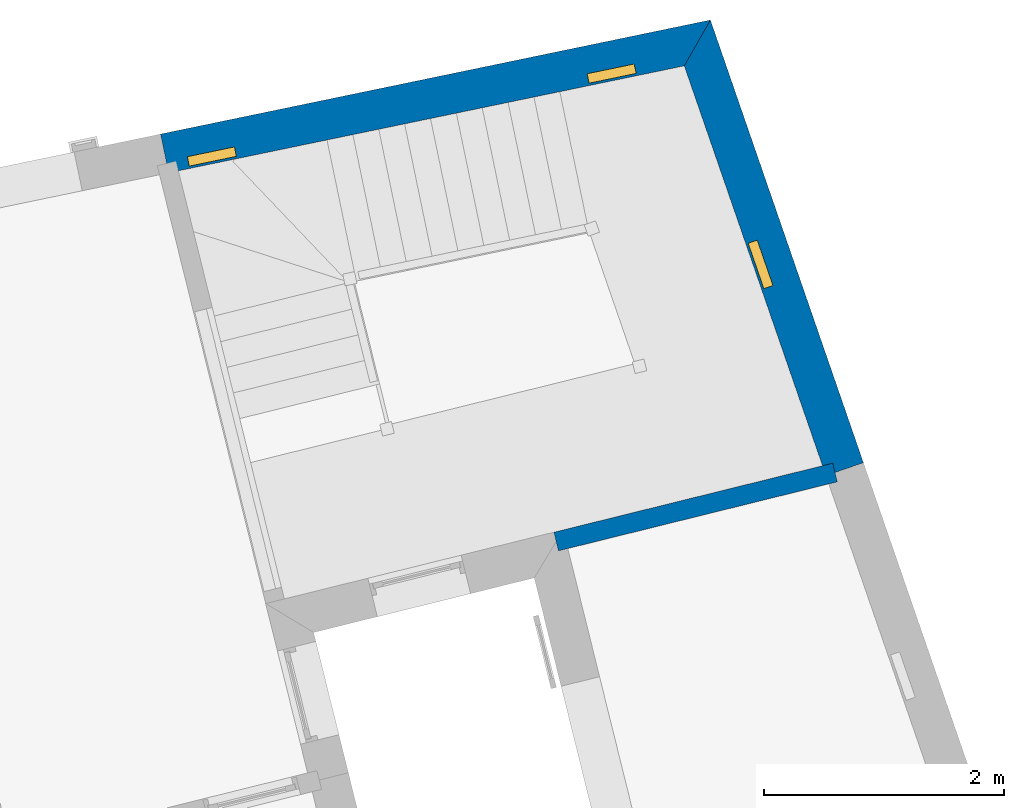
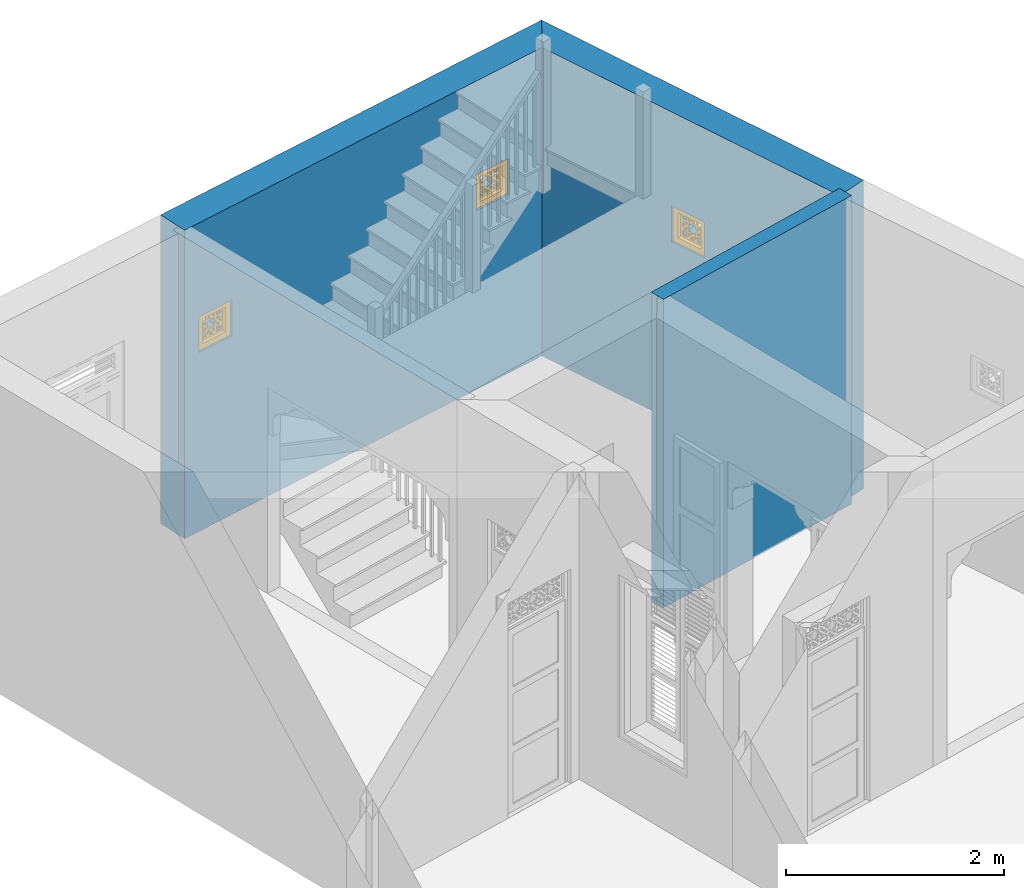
# One storey, part 10 of 10: 3 walls, 3 windows, 3 openings.
"""IFC4 building model written with IfcOpenShell, lengths in metres."""

from ifc_helpers import new_model, si_unit, frame, origin, origin_with_axes, place, context, subcontext, project, spatial, polyline, outline, extrude, faceted_brep, source, transform, mapped, material, layer, layer_set, layer_usage, type_object, type_shapes, element, fill, save


model = new_model("IFC4")

# Units and contexts
model_context = context("Model", 3, world=origin_with_axes())
body_context = subcontext(model_context, "Body", "Model", "MODEL_VIEW")
ifc_project = project(units=[si_unit("PLANEANGLEUNIT", "RADIAN"), si_unit("MASSUNIT", "GRAM", prefix="KILO"), si_unit("FORCEUNIT", "NEWTON", prefix="KILO"), si_unit("LENGTHUNIT", "METRE"), si_unit("AREAUNIT", "SQUARE_METRE"), si_unit("VOLUMEUNIT", "CUBIC_METRE")], contexts=[model_context, model_context])

# Site, building, storey
site_placement = place(None, origin_with_axes())
site = spatial("IfcSite", under=ifc_project, at=site_placement, Name="Site plot-5", CompositionType="ELEMENT")
building_placement = place(None, origin_with_axes())
building = spatial("IfcBuilding", under=site, at=building_placement, Name="Building plot-5", CompositionType="ELEMENT")
storey_placement = place(None, origin_with_axes())
storey = spatial("IfcBuildingStorey", under=building, at=storey_placement, Name="plot-5 0", CompositionType="ELEMENT", Elevation=0.0)

# Wall, opening, window
ifc_material_1 = material(Name="Masonry")
ifc_layer_1 = layer(ifc_material_1, 0.33, ventilated=False)
ifc_layer_set_1 = layer_set([ifc_layer_1], Name="exterior_0.08_0.25")
ifc_layer_usage_1 = layer_usage(ifc_layer_set_1, "AXIS2", "POSITIVE", -0.25)
wall_type_1 = type_object("IfcWallType", Name="exterior_0.08_0.25", PredefinedType="SOLIDWALL", material=ifc_layer_set_1)
wall_1_placement = place(storey_placement, frame((22.7831942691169, 28.5894654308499, 0.0), z_axis=(0.0, 0.0, 1.0), x_axis=(-0.326708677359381, 0.945125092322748, 0.0)))
wall_1 = element("IfcWall", 1, at=wall_1_placement, inside=storey, type_object=wall_type_1, material=ifc_layer_usage_1, Name="exterior", context=body_context, shape_type="SweptSolid", body=[
    extrude(outline(polyline([(7.59528607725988e-17, 0.0799999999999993), (-4.70313976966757e-15, -0.25), (3.90074241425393, -0.250000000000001), (3.61057343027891, 0.079999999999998), (7.59528607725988e-17, 0.0799999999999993)])), origin_with_axes(), (0.0, 0.0, 1.0), 3.45),
])
opening_1_placement = place(wall_1_placement, frame((1.64045871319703, 0.0, 2.0)))
opening_1 = element("IfcOpeningElement", 2, at=opening_1_placement, cuts=wall_1, Name="My Opening", ObjectType="Opening", context=body_context, shape_type="SweptSolid", body=[
    extrude(outline(polyline([(0.0, -0.270000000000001), (0.399999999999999, -0.270000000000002), (0.400000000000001, 1.1), (1.33226762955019e-15, 1.1), (0.0, -0.270000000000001)])), origin_with_axes(), (0.0, 0.0, 1.0), 0.4),
])
window_type = type_object("IfcWindowType", Name="barred_window", PartitioningType="DOUBLE_PANEL_HORIZONTAL", PredefinedType="NOTDEFINED")
shared_shape = source(origin(), body_context, "Body", "Brep", [
    faceted_brep([(0.4, 0.25, 0.4), (0.0, 0.25, 0.4), (0.06, 0.25, 0.34), (0.34, 0.25, 0.34), (0.06, 0.33, 0.34), (0.34, 0.33, 0.34), (0.34, 0.25, 0.06), (0.4, 0.25, 0.0), (0.4, 0.33, 0.4), (0.0, 0.33, 0.4), (0.0, 0.25, 0.0), (0.06, 0.25, 0.06), (0.06, 0.33, 0.06), (0.34, 0.33, 0.06), (0.4, 0.33, 0.0), (0.0, 0.33, 0.0), (0.136152, 0.28, 0.08), (0.08, 0.28, 0.08), (0.06, 0.28, 0.06), (0.136152, 0.28, 0.06), (0.136152, 0.29, 0.08), (0.08, 0.29, 0.08), (0.06, 0.28, 0.136152), (0.08, 0.28, 0.136152), (0.06, 0.29, 0.06), (0.136152, 0.29, 0.06), (0.170294, 0.28, 0.08), (0.170294, 0.28, 0.06), (0.136152, 0.28, 0.136152), (0.136152, 0.29, 0.136152), (0.08, 0.29, 0.136152), (0.06, 0.29, 0.136152), (0.08, 0.28, 0.170294), (0.06, 0.28, 0.170294), (0.170294, 0.29, 0.06), (0.229706, 0.28, 0.08), (0.229706, 0.28, 0.06), (0.156152, 0.28, 0.094142), (0.156152, 0.28, 0.136152), (0.185858, 0.28, 0.123848), (0.185858, 0.29, 0.123848), (0.156152, 0.29, 0.094142), (0.156152, 0.29, 0.136152), (0.229706, 0.29, 0.08), (0.170294, 0.29, 0.08), (0.2, 0.28, 0.109706), (0.2, 0.29, 0.109706), (0.06, 0.29, 0.170294), (0.094142, 0.28, 0.156152), (0.08, 0.28, 0.229706), (0.06, 0.28, 0.229706), (0.229706, 0.29, 0.06), (0.263848, 0.28, 0.08), (0.263848, 0.28, 0.06), (0.156152, 0.28, 0.156152), (0.136152, 0.28, 0.156152), (0.173553, 0.28, 0.136152), (0.173553, 0.29, 0.136152), (0.156152, 0.29, 0.156152), (0.136152, 0.29, 0.156152), (0.094142, 0.29, 0.156152), (0.08, 0.29, 0.170294), (0.06, 0.29, 0.229706), (0.123848, 0.28, 0.185858), (0.109706, 0.28, 0.2), (0.08, 0.29, 0.229706), (0.08, 0.28, 0.263848), (0.06, 0.28, 0.263848), (0.263848, 0.29, 0.06), (0.2, 0.28, 0.13799), (0.214142, 0.28, 0.123848), (0.34, 0.28, 0.06), (0.32, 0.28, 0.08), (0.181838, 0.28, 0.156152), (0.136152, 0.28, 0.173553), (0.156152, 0.28, 0.181838), (0.181838, 0.29, 0.156152), (0.2, 0.29, 0.13799), (0.214142, 0.29, 0.123848), (0.136152, 0.29, 0.173553), (0.156152, 0.29, 0.181838), (0.243848, 0.28, 0.094142), (0.243848, 0.29, 0.094142), (0.263848, 0.28, 0.136152), (0.263848, 0.29, 0.08), (0.263848, 0.29, 0.136152), (0.32, 0.29, 0.08), (0.243848, 0.28, 0.136152), (0.243848, 0.29, 0.136152), (0.06, 0.29, 0.263848), (0.123848, 0.29, 0.185858), (0.13799, 0.28, 0.2), (0.123848, 0.28, 0.214142), (0.109706, 0.29, 0.2), (0.094142, 0.28, 0.243848), (0.08, 0.28, 0.32), (0.06, 0.28, 0.34), (0.34, 0.29, 0.06), (0.218162, 0.28, 0.156152), (0.226447, 0.28, 0.136152), (0.34, 0.28, 0.229706), (0.32, 0.28, 0.229706), (0.32, 0.28, 0.170294), (0.32, 0.28, 0.136152), (0.218162, 0.29, 0.156152), (0.226447, 0.29, 0.136152), (0.13799, 0.29, 0.2), (0.32, 0.29, 0.136152), (0.08, 0.29, 0.263848), (0.06, 0.29, 0.34), (0.136152, 0.28, 0.226447), (0.156152, 0.28, 0.218162), (0.094142, 0.29, 0.243848), (0.123848, 0.29, 0.214142), (0.136152, 0.28, 0.243848), (0.136152, 0.28, 0.263848), (0.08, 0.29, 0.32), (0.136152, 0.28, 0.34), (0.136152, 0.28, 0.32), (0.34, 0.29, 0.229706), (0.243848, 0.28, 0.156152), (0.263848, 0.28, 0.156152), (0.34, 0.28, 0.263848), (0.32, 0.28, 0.263848), (0.32, 0.29, 0.229706), (0.32, 0.29, 0.170294), (0.290294, 0.28, 0.2), (0.276152, 0.28, 0.185858), (0.305858, 0.28, 0.156152), (0.243848, 0.29, 0.156152), (0.263848, 0.29, 0.156152), (0.305858, 0.29, 0.156152), (0.276152, 0.29, 0.185858), (0.290294, 0.29, 0.2), (0.136152, 0.29, 0.34), (0.136152, 0.29, 0.226447), (0.156152, 0.29, 0.218162), (0.156152, 0.28, 0.243848), (0.136152, 0.29, 0.243848), (0.156152, 0.28, 0.263848), (0.136152, 0.29, 0.263848), (0.136152, 0.29, 0.32), (0.170294, 0.28, 0.32), (0.170294, 0.28, 0.34), (0.34, 0.29, 0.263848), (0.243848, 0.28, 0.181838), (0.263848, 0.28, 0.173553), (0.34, 0.28, 0.34), (0.32, 0.28, 0.32), (0.305858, 0.28, 0.243848), (0.276152, 0.28, 0.214142), (0.26201, 0.28, 0.2), (0.243848, 0.29, 0.181838), (0.263848, 0.29, 0.173553), (0.26201, 0.29, 0.2), (0.276152, 0.29, 0.214142), (0.32, 0.29, 0.263848), (0.170294, 0.29, 0.34), (0.156152, 0.29, 0.243848), (0.173553, 0.28, 0.263848), (0.181838, 0.28, 0.243848), (0.156152, 0.28, 0.305858), (0.229706, 0.28, 0.32), (0.229706, 0.28, 0.34), (0.34, 0.29, 0.34), (0.263848, 0.28, 0.34), (0.263848, 0.28, 0.32), (0.32, 0.29, 0.32), (0.263848, 0.28, 0.263848), (0.263848, 0.28, 0.243848), (0.305858, 0.29, 0.243848), (0.263848, 0.28, 0.226447), (0.243848, 0.28, 0.218162), (0.243848, 0.29, 0.218162), (0.263848, 0.29, 0.226447), (0.156152, 0.29, 0.263848), (0.170294, 0.29, 0.32), (0.229706, 0.29, 0.34), (0.181838, 0.29, 0.243848), (0.173553, 0.29, 0.263848), (0.185858, 0.28, 0.276152), (0.2, 0.28, 0.26201), (0.156152, 0.29, 0.305858), (0.229706, 0.29, 0.32), (0.263848, 0.29, 0.34), (0.263848, 0.29, 0.32), (0.263848, 0.29, 0.263848), (0.243848, 0.28, 0.243848), (0.243848, 0.28, 0.263848), (0.263848, 0.29, 0.243848), (0.243848, 0.29, 0.243848), (0.2, 0.29, 0.26201), (0.185858, 0.29, 0.276152), (0.214142, 0.28, 0.276152), (0.218162, 0.28, 0.243848), (0.226447, 0.28, 0.263848), (0.243848, 0.28, 0.305858), (0.2, 0.28, 0.290294), (0.2, 0.29, 0.290294), (0.243848, 0.29, 0.263848), (0.218162, 0.29, 0.243848), (0.214142, 0.29, 0.276152), (0.226447, 0.29, 0.263848), (0.243848, 0.29, 0.305858)], [[[0, 1, 2, 3]], [[3, 2, 4, 5]], [[3, 6, 7, 0]], [[1, 0, 8, 9]], [[1, 10, 11, 2]], [[2, 11, 12, 4]], [[9, 8, 5, 4]], [[6, 3, 5, 13]], [[6, 11, 10, 7]], [[0, 7, 14, 8]], [[10, 1, 9, 15]], [[11, 6, 13, 12]], [[4, 12, 15, 9]], [[8, 14, 13, 5]], [[7, 10, 15, 14]], [[12, 13, 14, 15]], [[16, 17, 18, 19]], [[17, 16, 20, 21]], [[22, 18, 17, 23]], [[19, 18, 24, 25]], [[26, 16, 19, 27]], [[16, 28, 29, 20]], [[21, 20, 25, 24]], [[23, 17, 21, 30]], [[18, 22, 31, 24]], [[23, 32, 33, 22]], [[27, 19, 25, 34]], [[35, 26, 27, 36]], [[28, 16, 37, 38]], [[37, 39, 40, 41]], [[38, 37, 41, 42]], [[20, 29, 42, 41]], [[26, 35, 43, 44]], [[45, 26, 44, 46]], [[20, 44, 34, 25]], [[28, 23, 30, 29]], [[24, 31, 30, 21]], [[22, 33, 47, 31]], [[48, 32, 23]], [[32, 49, 50, 33]], [[36, 27, 34, 51]], [[39, 37, 26, 45]], [[52, 35, 36, 53]], [[38, 54, 55, 28]], [[39, 56, 57, 40]], [[41, 40, 46, 44]], [[56, 38, 42, 57]], [[58, 42, 29, 59]], [[35, 45, 46, 43]], [[44, 43, 51, 34]], [[23, 28, 55, 48]], [[29, 30, 60, 59]], [[61, 30, 31, 47]], [[33, 50, 62, 47]], [[48, 63, 64, 32]], [[49, 32, 61, 65]], [[49, 66, 67, 50]], [[53, 36, 51, 68]], [[69, 39, 45, 70]], [[53, 71, 72, 52]], [[73, 54, 38, 56]], [[74, 55, 54, 75]], [[56, 39, 69, 73]], [[40, 57, 76, 77]], [[40, 77, 78, 46]], [[58, 76, 57, 42]], [[59, 79, 80, 58]], [[45, 35, 81, 70]], [[43, 46, 78, 82]], [[83, 52, 84, 85]], [[82, 84, 43]], [[52, 72, 86, 84]], [[43, 84, 68, 51]], [[44, 20, 41]], [[70, 81, 82, 78]], [[81, 87, 88, 82]], [[48, 55, 59, 60]], [[61, 60, 30]], [[65, 61, 47, 62]], [[50, 67, 89, 62]], [[63, 48, 60, 90]], [[63, 91, 92, 64]], [[32, 64, 93, 61]], [[64, 49, 65, 93]], [[94, 66, 49]], [[66, 95, 96, 67]], [[71, 53, 68, 97]], [[98, 69, 70, 99]], [[81, 52, 83, 87]], [[72, 71, 100]], [[100, 101, 102]], [[103, 72, 100]], [[100, 102, 103]], [[54, 73, 76, 58]], [[55, 74, 79, 59]], [[75, 54, 58, 80]], [[63, 74, 75, 91]], [[73, 69, 77, 76]], [[77, 104, 105, 78]], [[79, 90, 106, 80]], [[84, 82, 88, 85]], [[103, 83, 85, 107]], [[72, 103, 107, 86]], [[97, 68, 84, 86]], [[99, 70, 78, 105]], [[87, 99, 105, 88]], [[90, 60, 61, 93]], [[108, 65, 62, 89]], [[67, 96, 109, 89]], [[74, 63, 90, 79]], [[110, 92, 91, 111]], [[49, 64, 92, 94]], [[93, 65, 112, 113]], [[94, 114, 115, 66]], [[95, 66, 108, 116]], [[117, 96, 95, 118]], [[100, 71, 97, 119]], [[69, 98, 104, 77]], [[99, 87, 120, 98]], [[87, 83, 121, 120]], [[101, 100, 122, 123]], [[102, 101, 124, 125]], [[121, 83, 103]], [[103, 102, 126]], [[126, 127, 128]], [[128, 121, 103]], [[103, 126, 128]], [[91, 75, 80, 106]], [[88, 105, 104, 129]], [[106, 90, 93, 113]], [[85, 88, 129, 130]], [[107, 85, 130]], [[131, 132, 133]], [[107, 130, 131]], [[133, 125, 107]], [[107, 131, 133]], [[124, 119, 97]], [[97, 86, 107]], [[107, 125, 124]], [[97, 107, 124]], [[108, 112, 65]], [[116, 108, 89, 109]], [[96, 117, 134, 109]], [[92, 110, 135, 113]], [[111, 91, 106, 136]], [[114, 110, 111, 137]], [[94, 92, 113, 112]], [[114, 94, 112, 138]], [[114, 137, 139, 115]], [[66, 115, 140, 108]], [[118, 95, 116, 141]], [[118, 142, 143, 117]], [[122, 100, 119, 144]], [[98, 120, 129, 104]], [[145, 120, 121, 146]], [[122, 147, 148, 123]], [[123, 149, 101]], [[101, 126, 133, 124]], [[126, 102, 125, 133]], [[127, 126, 150, 151]], [[128, 127, 132, 131]], [[121, 128, 131, 130]], [[113, 135, 136, 106]], [[129, 152, 153, 130]], [[133, 132, 154, 155]], [[119, 124, 156, 144]], [[138, 112, 108, 140]], [[109, 134, 141, 116]], [[117, 143, 157, 134]], [[110, 114, 138, 135]], [[137, 111, 136, 158]], [[159, 139, 137, 160]], [[118, 115, 139, 161]], [[115, 118, 141, 140]], [[161, 142, 118]], [[162, 163, 143, 142]], [[147, 122, 144, 164]], [[120, 145, 152, 129]], [[146, 121, 130, 153]], [[146, 127, 151, 145]], [[147, 165, 166, 148]], [[123, 148, 167, 156]], [[149, 123, 168, 169]], [[149, 150, 126, 101]], [[155, 170, 124, 133]], [[151, 150, 171, 172]], [[127, 146, 153, 132]], [[135, 138, 158, 136]], [[132, 153, 152, 154]], [[155, 154, 173, 174]], [[170, 156, 124]], [[164, 144, 156, 167]], [[158, 138, 140, 175]], [[176, 141, 134, 157]], [[143, 163, 177, 157]], [[160, 137, 158, 178]], [[139, 159, 179, 175]], [[180, 159, 160, 181]], [[161, 139, 175, 182]], [[140, 141, 182, 175]], [[166, 165, 163, 162]], [[162, 142, 176, 183]], [[165, 147, 164, 184]], [[145, 151, 154, 152]], [[148, 166, 185, 167]], [[156, 186, 168, 123]], [[187, 169, 168, 188]], [[149, 169, 189, 170]], [[150, 149, 170, 155]], [[171, 150, 155, 174]], [[171, 169, 187, 172]], [[151, 172, 173, 154]], [[189, 174, 173, 190]], [[156, 170, 189, 186]], [[184, 164, 167, 185]], [[175, 179, 178, 158]], [[176, 182, 141]], [[177, 183, 176, 157]], [[163, 165, 184, 177]], [[181, 160, 178, 191]], [[159, 180, 192, 179]], [[180, 161, 182, 192]], [[193, 181, 194, 195]], [[196, 162, 197, 193]], [[180, 197, 142, 161]], [[197, 180, 181, 193]], [[142, 197, 198, 176]], [[162, 196, 166]], [[35, 52, 81]], [[197, 162, 183, 198]], [[185, 166, 168, 186]], [[196, 188, 168, 166]], [[187, 188, 195, 194]], [[169, 171, 174, 189]], [[172, 187, 190, 173]], [[189, 190, 199, 186]], [[184, 185, 183, 177]], [[179, 192, 191, 178]], [[176, 198, 192, 182]], [[194, 181, 191, 200]], [[191, 192, 198, 201]], [[26, 37, 16]], [[193, 195, 202, 201]], [[196, 193, 201, 203]], [[191, 201, 202, 200]], [[183, 203, 201, 198]], [[188, 196, 203, 199]], [[203, 183, 185]], [[199, 203, 185, 186]], [[195, 188, 199, 202]], [[187, 194, 200, 190]], [[199, 190, 200, 202]]]),
])
type_shapes(window_type, [shared_shape])
window_1_placement = place(storey_placement, frame((22.5024259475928, 30.2281154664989, 2.0), z_axis=(0.0, 0.0, 1.0), x_axis=(-0.130683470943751, 0.3780500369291, 0.0)))
window_1 = element("IfcWindow", 3, at=window_1_placement, inside=storey, type_object=window_type, Name="circulation street window", OverallHeight=0.4, OverallWidth=0.4, context=body_context, shape_type="MappedRepresentation", body=[
    mapped(shared_shape, transform((0.0, 0.0, 0.0), scale=1.0)),
])
fill(opening_1, window_1)

# Wall, openings, windows
wall_2_placement = place(storey_placement, frame((21.5806066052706, 32.068392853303, 0.0), z_axis=(0.0, 0.0, 1.0), x_axis=(-0.979153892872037, -0.203119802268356, 0.0)))
wall_2 = element("IfcWall", 4, at=wall_2_placement, inside=storey, type_object=wall_type_1, material=ifc_layer_usage_1, Name="exterior", context=body_context, shape_type="SweptSolid", body=[
    extrude(outline(polyline([(0.070343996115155, 0.0800000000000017), (-0.219824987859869, -0.249999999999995), (4.45606106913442, -0.249999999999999), (4.45606106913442, 0.0800000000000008), (0.070343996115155, 0.0800000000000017)])), origin_with_axes(), (0.0, 0.0, 1.0), 3.45),
])
opening_2_placement = place(wall_2_placement, frame((0.476061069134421, 0.0, 2.0)))
opening_2 = element("IfcOpeningElement", 5, at=opening_2_placement, cuts=wall_2, Name="My Opening", ObjectType="Opening", context=body_context, shape_type="SweptSolid", body=[
    extrude(outline(polyline([(0.0, -0.270000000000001), (0.400000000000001, -0.27), (0.399999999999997, 1.1), (-2.1094237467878e-15, 1.1), (0.0, -0.270000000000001)])), origin_with_axes(), (0.0, 0.0, 1.0), 0.4),
])
opening_3_placement = place(wall_2_placement, frame((3.87606106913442, 0.0, 2.0)))
opening_3 = element("IfcOpeningElement", 6, at=opening_3_placement, cuts=wall_2, Name="My Opening", ObjectType="Opening", context=body_context, shape_type="SweptSolid", body=[
    extrude(outline(polyline([(0.0, -0.269999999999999), (0.4, -0.269999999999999), (0.399999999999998, 1.1), (-3.10862446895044e-15, 1.1), (0.0, -0.269999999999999)])), origin_with_axes(), (0.0, 0.0, 1.0), 0.4),
])
window_2_placement = place(storey_placement, frame((21.0596272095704, 32.2360669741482, 2.0), z_axis=(0.0, 0.0, 1.0), x_axis=(-0.391661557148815, -0.0812479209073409, 0.0)))
window_2 = element("IfcWindow", 7, at=window_2_placement, inside=storey, type_object=window_type, Name="circulation street window", OverallHeight=0.4, OverallWidth=0.4, context=body_context, shape_type="MappedRepresentation", body=[
    mapped(shared_shape, transform((0.0, 0.0, 0.0), scale=1.0)),
])
fill(opening_2, window_2)
window_3_placement = place(storey_placement, frame((17.7305039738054, 31.5454596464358, 2.0), z_axis=(0.0, 0.0, 1.0), x_axis=(-0.391661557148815, -0.0812479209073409, 0.0)))
window_3 = element("IfcWindow", 8, at=window_3_placement, inside=storey, type_object=window_type, Name="circulation street window", OverallHeight=0.4, OverallWidth=0.4, context=body_context, shape_type="MappedRepresentation", body=[
    mapped(shared_shape, transform((0.0, 0.0, 0.0), scale=1.0)),
])
fill(opening_3, window_3)

# Wall
ifc_material_2 = material(Name="Masonry")
ifc_layer_2 = layer(ifc_material_2, 0.16, ventilated=False)
ifc_layer_set_2 = layer_set([ifc_layer_2], Name="interior_0.08_0.08")
ifc_layer_usage_2 = layer_usage(ifc_layer_set_2, "AXIS2", "POSITIVE", -0.08)
wall_type_2 = type_object("IfcWallType", Name="interior_0.08_0.08", PredefinedType="SOLIDWALL", material=ifc_layer_set_2)
wall_3_placement = place(storey_placement, frame((22.7831942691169, 28.5894654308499, 0.0), z_axis=(0.0, 0.0, 1.0), x_axis=(-0.970711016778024, -0.240250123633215, 0.0)))
element("IfcWall", 9, at=wall_3_placement, inside=storey, type_object=wall_type_2, material=ifc_layer_usage_2, Name="interior", context=body_context, shape_type="SweptSolid", body=[
    extrude(outline(polyline([(1.33533543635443e-15, 0.0800000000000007), (-1.34513261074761e-15, -0.0800000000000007), (2.39219145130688, -0.0800000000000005), (2.39219145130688, 0.0800000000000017), (1.33533543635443e-15, 0.0800000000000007)])), origin_with_axes(), (0.0, 0.0, 1.0), 3.45),
])

save(model, "model.ifc")
